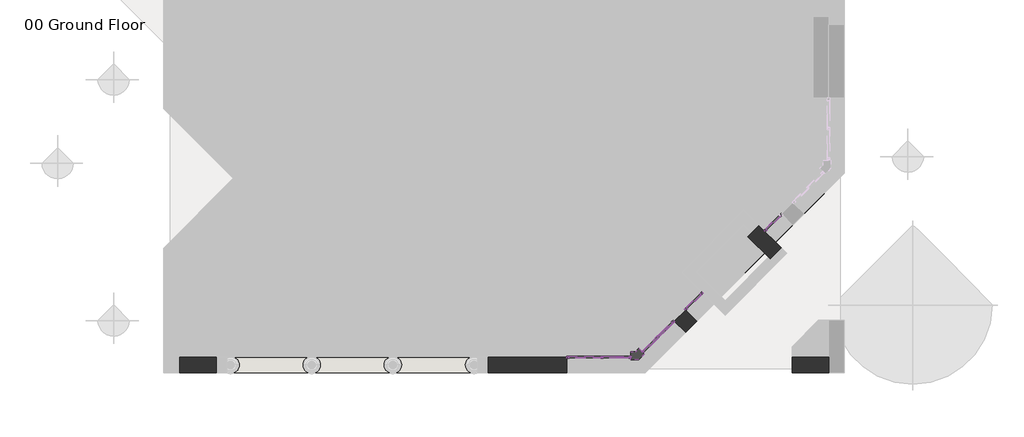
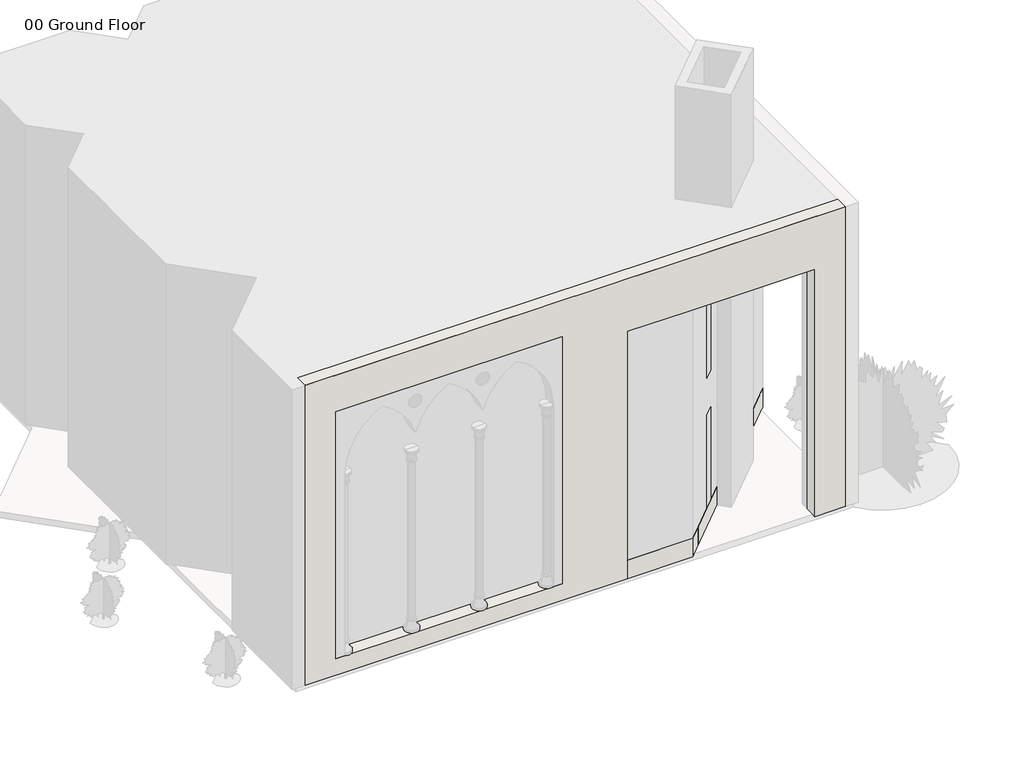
# One storey, part 1 of 3: 60 members, 21 plates, 5 walls.
"""IFC4 building model written with IfcOpenShell, lengths in millimetres."""

from ifc_helpers import new_model, si_unit, frame, origin, origin_with_axes, place, context, project, spatial, polyline, outline, extrude, faceted_brep, transform, mapped, element, save
from components import l_corner_mullion_l_mullion_1_e2d9d5b3, l_corner_mullion_l_mullion_1_e8b68346, l_corner_mullion_l_mullion_1_c02d540a, rectangular_mullion_30mm_square_5320ad48, rectangular_mullion_30mm_square_78a9478a, rectangular_mullion_30mm_square_8b2a8ca9, rectangular_mullion_30mm_square_79043444, rectangular_mullion_30mm_square_95f67fdb, rectangular_mullion_30mm_square_9f93f3b7, rectangular_mullion_30mm_square_da852ec3, rectangular_mullion_30mm_square_75a85c25, rectangular_mullion_30mm_square_58012b9b, rectangular_mullion_30mm_square_f9243ba7, rectangular_mullion_30mm_square_420f87d1, rectangular_mullion_30mm_square_9f401dcf, rectangular_mullion_30mm_square_8f27d01c, rectangular_mullion_30mm_square_376ee912, rectangular_mullion_30mm_square_b878c449, rectangular_mullion_30mm_square_f6e17314, rectangular_mullion_30mm_square_53190b3b, rectangular_mullion_30mm_square_433c3593, rectangular_mullion_30mm_square_e0b9fe8b, rectangular_mullion_30mm_square_b8c613d2, rectangular_mullion_30mm_square_6a42bf5c, rectangular_mullion_30mm_square_509656ef, rectangular_mullion_30mm_square_d2729fb2, rectangular_mullion_30mm_square_d63b7fbb, rectangular_mullion_30mm_square_65c46e77, rectangular_mullion_30mm_square_ff14cbc6, rectangular_mullion_30mm_square_ad176692, rectangular_mullion_30mm_square_9fe42079, system_panel_glazed_057a40a6, system_panel_glazed_b25b30cb, system_panel_glazed_b103806a, system_panel_glazed_7664c6fa, system_panel_glazed_08d62073, system_panel_glazed_7ff83298, system_panel_glazed_452d36e2, system_panel_glazed_01add136, system_panel_glazed_d1b73f3c, system_panel_glazed_32dad4e2, system_panel_glazed_42e5d501, system_panel_glazed_ac2dccf3, system_panel_glazed_d546440a, system_panel_glazed_63757f84, system_panel_glazed_193d12b3, system_panel_glazed_63dc7568, system_panel_glazed_cc472106, system_panel_glazed_829cf6d2, system_panel_glazed_fe00273a, system_panel_glazed_60207cc9, system_panel_glazed_c236d84a

model = new_model("IFC4")

# Units and contexts
model_context = context("Model", 3, world=origin())
ifc_project = project(units=[si_unit("LENGTHUNIT", "METRE", prefix="MILLI")], contexts=[model_context])

# Site, building, storey
site = spatial("IfcSite", under=ifc_project)
building = spatial("IfcBuilding", under=site)
storey = spatial("IfcBuildingStorey", under=building, Name="00 Ground Floor", Elevation=0.0)

# Members
placement = place(None, origin())
l_corner_mullion_l_mullion_1_shape = l_corner_mullion_l_mullion_1_e2d9d5b3(model_context)
element("IfcMember", 1, ObjectType="L Corner Mullion : L Mullion 1", at=placement, inside=storey, context=model_context, shape_type="MappedRepresentation", body=[
    mapped(l_corner_mullion_l_mullion_1_shape, transform((9052.387831, 299.9997817, 975.0), x_axis=(-0.7071067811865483, -0.7071067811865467, 0.0), y_axis=(0.7071067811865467, -0.7071067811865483, 0.0), z_axis=(0.0, 0.0, 1.0))),
])
l_corner_mullion_l_mullion_1_2_shape = l_corner_mullion_l_mullion_1_e8b68346(model_context)
element("IfcMember", 2, ObjectType="L Corner Mullion : L Mullion 1", at=placement, inside=storey, context=model_context, shape_type="MappedRepresentation", body=[
    mapped(l_corner_mullion_l_mullion_1_2_shape, transform((9052.387831, 299.9997817, 2699.6621432), x_axis=(-0.7071067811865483, -0.7071067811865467, 0.0), y_axis=(0.7071067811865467, -0.7071067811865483, 0.0), z_axis=(0.0, 0.0, 1.0))),
])
l_corner_mullion_l_mullion_1_3_shape = l_corner_mullion_l_mullion_1_c02d540a(model_context)
element("IfcMember", 3, ObjectType="L Corner Mullion : L Mullion 1", at=placement, inside=storey, context=model_context, shape_type="MappedRepresentation", body=[
    mapped(l_corner_mullion_l_mullion_1_3_shape, transform((9052.387831, 299.9997817, 2080.0), x_axis=(-0.7071067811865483, -0.7071067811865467, 0.0), y_axis=(0.7071067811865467, -0.7071067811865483, 0.0), z_axis=(0.0, 0.0, 1.0))),
])
rectangular_mullion_30mm_square_shape = rectangular_mullion_30mm_square_5320ad48(model_context)
element("IfcMember", 4, ObjectType="Rectangular Mullion : 30mm Square", at=placement, inside=storey, context=model_context, shape_type="MappedRepresentation", body=[
    mapped(rectangular_mullion_30mm_square_shape, transform((8372.387831, 299.9997817, 975.0), x_axis=(0.0, 0.0, 1.0), y_axis=(0.0, -1.0, 0.0), z_axis=(1.0, 0.0, 0.0))),
])
element("IfcMember", 5, ObjectType="Rectangular Mullion : 30mm Square", at=placement, inside=storey, context=model_context, shape_type="MappedRepresentation", body=[
    mapped(rectangular_mullion_30mm_square_shape, transform((8372.387831, 299.9997817, 2080.0), x_axis=(0.0, 0.0, 1.0), y_axis=(0.0, -1.0, 0.0), z_axis=(1.0, 0.0, 0.0))),
])
rectangular_mullion_30mm_square_2_shape = rectangular_mullion_30mm_square_78a9478a(model_context)
element("IfcMember", 6, ObjectType="Rectangular Mullion : 30mm Square", at=placement, inside=storey, context=model_context, shape_type="MappedRepresentation", body=[
    mapped(rectangular_mullion_30mm_square_2_shape, transform((8372.387831, 299.9997817, 2700.0), x_axis=(0.0, 0.0, 1.0), y_axis=(0.0, -1.0, 0.0), z_axis=(1.0, 0.0, 0.0))),
])
rectangular_mullion_30mm_square_3_shape = rectangular_mullion_30mm_square_8b2a8ca9(model_context)
element("IfcMember", 7, ObjectType="Rectangular Mullion : 30mm Square", at=placement, inside=storey, context=model_context, shape_type="MappedRepresentation", body=[
    mapped(rectangular_mullion_30mm_square_3_shape, transform((7692.387831, 299.9997817, 2080.0), x_axis=(-1.0, 0.0, 0.0), y_axis=(0.0, -1.0, 0.0), z_axis=(0.0, 0.0, 1.0))),
])
rectangular_mullion_30mm_square_4_shape = rectangular_mullion_30mm_square_79043444(model_context)
element("IfcMember", 8, ObjectType="Rectangular Mullion : 30mm Square", at=placement, inside=storey, context=model_context, shape_type="MappedRepresentation", body=[
    mapped(rectangular_mullion_30mm_square_4_shape, transform((8902.387831, 299.9997817, 975.0), x_axis=(1.0, 0.0, 0.0), y_axis=(0.0, -1.0, 0.0), z_axis=(0.0, 0.0, -1.0))),
])
rectangular_mullion_30mm_square_5_shape = rectangular_mullion_30mm_square_95f67fdb(model_context)
element("IfcMember", 9, ObjectType="Rectangular Mullion : 30mm Square", at=placement, inside=storey, context=model_context, shape_type="MappedRepresentation", body=[
    mapped(rectangular_mullion_30mm_square_5_shape, transform((8902.387831, 299.9997817, 2080.0), x_axis=(1.0, 0.0, 0.0), y_axis=(0.0, -1.0, 0.0), z_axis=(0.0, 0.0, -1.0))),
])
rectangular_mullion_30mm_square_6_shape = rectangular_mullion_30mm_square_9f93f3b7(model_context)
element("IfcMember", 10, ObjectType="Rectangular Mullion : 30mm Square", at=placement, inside=storey, context=model_context, shape_type="MappedRepresentation", body=[
    mapped(rectangular_mullion_30mm_square_6_shape, transform((7692.387831, 299.9997817, 2650.0), x_axis=(-1.0, 0.0, 0.0), y_axis=(0.0, -1.0, 0.0), z_axis=(0.0, 0.0, 1.0))),
])
rectangular_mullion_30mm_square_7_shape = rectangular_mullion_30mm_square_da852ec3(model_context)
element("IfcMember", 11, ObjectType="Rectangular Mullion : 30mm Square", at=placement, inside=storey, context=model_context, shape_type="MappedRepresentation", body=[
    mapped(rectangular_mullion_30mm_square_7_shape, transform((8927.387831, 299.9997817, 2700.0), x_axis=(0.0, 0.0, 1.0), y_axis=(0.0, -1.0, 0.0), z_axis=(1.0, 0.0, 0.0))),
])
rectangular_mullion_30mm_square_8_shape = rectangular_mullion_30mm_square_75a85c25(model_context)
element("IfcMember", 12, ObjectType="Rectangular Mullion : 30mm Square", at=placement, inside=storey, context=model_context, shape_type="MappedRepresentation", body=[
    mapped(rectangular_mullion_30mm_square_8_shape, transform((8877.387831, 299.9997817, 975.0), x_axis=(0.0, 0.0, 1.0), y_axis=(0.0, -1.0, 0.0), z_axis=(1.0, 0.0, 0.0))),
])
element("IfcMember", 13, ObjectType="Rectangular Mullion : 30mm Square", at=placement, inside=storey, context=model_context, shape_type="MappedRepresentation", body=[
    mapped(rectangular_mullion_30mm_square_8_shape, transform((8877.387831, 299.9997817, 2080.0), x_axis=(0.0, 0.0, 1.0), y_axis=(0.0, -1.0, 0.0), z_axis=(1.0, 0.0, 0.0))),
])
rectangular_mullion_30mm_square_9_shape = rectangular_mullion_30mm_square_58012b9b(model_context)
element("IfcMember", 14, ObjectType="Rectangular Mullion : 30mm Square", at=placement, inside=storey, context=model_context, shape_type="MappedRepresentation", body=[
    mapped(rectangular_mullion_30mm_square_9_shape, transform((8372.387831, 299.9997817, 1000.0), x_axis=(1.0, 0.0, 0.0), y_axis=(0.0, -1.0, 0.0), z_axis=(0.0, 0.0, -1.0))),
])
rectangular_mullion_30mm_square_10_shape = rectangular_mullion_30mm_square_f9243ba7(model_context)
element("IfcMember", 15, ObjectType="Rectangular Mullion : 30mm Square", at=placement, inside=storey, context=model_context, shape_type="MappedRepresentation", body=[
    mapped(rectangular_mullion_30mm_square_10_shape, transform((8372.387831, 299.9997817, 2105.0), x_axis=(1.0, 0.0, 0.0), y_axis=(0.0, -1.0, 0.0), z_axis=(0.0, 0.0, -1.0))),
])
rectangular_mullion_30mm_square_11_shape = rectangular_mullion_30mm_square_420f87d1(model_context)
element("IfcMember", 16, ObjectType="Rectangular Mullion : 30mm Square", at=placement, inside=storey, context=model_context, shape_type="MappedRepresentation", body=[
    mapped(rectangular_mullion_30mm_square_11_shape, transform((7692.387831, 299.9997817, 975.0), x_axis=(-1.0, 0.0, 0.0), y_axis=(0.0, -1.0, 0.0), z_axis=(0.0, 0.0, 1.0))),
])
element("IfcMember", 17, ObjectType="Rectangular Mullion : 30mm Square", at=placement, inside=storey, context=model_context, shape_type="MappedRepresentation", body=[
    mapped(rectangular_mullion_30mm_square_2_shape, transform((7692.387831, 299.9997817, 450.0), x_axis=(0.0, 0.0, -1.0), y_axis=(0.0, -1.0, 0.0), z_axis=(-1.0, 0.0, 0.0))),
])
rectangular_mullion_30mm_square_12_shape = rectangular_mullion_30mm_square_9f401dcf(model_context)
element("IfcMember", 18, ObjectType="Rectangular Mullion : 30mm Square", at=placement, inside=storey, context=model_context, shape_type="MappedRepresentation", body=[
    mapped(rectangular_mullion_30mm_square_12_shape, transform((8372.387831, 299.9997817, 500.0), x_axis=(1.0, 0.0, 0.0), y_axis=(0.0, -1.0, 0.0), z_axis=(0.0, 0.0, -1.0))),
])
element("IfcMember", 19, ObjectType="Rectangular Mullion : 30mm Square", at=placement, inside=storey, context=model_context, shape_type="MappedRepresentation", body=[
    mapped(rectangular_mullion_30mm_square_7_shape, transform((8372.387831, 299.9997817, 450.0), x_axis=(0.0, 0.0, -1.0), y_axis=(0.0, -1.0, 0.0), z_axis=(-1.0, 0.0, 0.0))),
])
rectangular_mullion_30mm_square_13_shape = rectangular_mullion_30mm_square_8f27d01c(model_context)
element("IfcMember", 20, ObjectType="Rectangular Mullion : 30mm Square", at=placement, inside=storey, context=model_context, shape_type="MappedRepresentation", body=[
    mapped(rectangular_mullion_30mm_square_13_shape, transform((8902.387831, 299.9997817, 500.0), x_axis=(1.0, 0.0, 0.0), y_axis=(0.0, -1.0, 0.0), z_axis=(0.0, 0.0, -1.0))),
])
rectangular_mullion_30mm_square_14_shape = rectangular_mullion_30mm_square_376ee912(model_context)
element("IfcMember", 21, ObjectType="Rectangular Mullion : 30mm Square", at=placement, inside=storey, context=model_context, shape_type="MappedRepresentation", body=[
    mapped(rectangular_mullion_30mm_square_14_shape, transform((9158.4538482, 406.0657989, 2699.6621432), x_axis=(0.0, 0.0, 1.0), y_axis=(0.7071067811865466, -0.7071067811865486, 0.0), z_axis=(0.7071067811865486, 0.7071067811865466, 0.0))),
])
element("IfcMember", 22, ObjectType="Rectangular Mullion : 30mm Square", at=placement, inside=storey, context=model_context, shape_type="MappedRepresentation", body=[
    mapped(rectangular_mullion_30mm_square_14_shape, transform((9145.1487617, 392.7607123, 450.0), x_axis=(0.0, 0.0, -1.0), y_axis=(0.7071067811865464, -0.7071067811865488, 0.0), z_axis=(-0.7071067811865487, -0.7071067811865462, 0.0))),
])
rectangular_mullion_30mm_square_15_shape = rectangular_mullion_30mm_square_b878c449(model_context)
element("IfcMember", 23, ObjectType="Rectangular Mullion : 30mm Square", at=placement, inside=storey, context=model_context, shape_type="MappedRepresentation", body=[
    mapped(rectangular_mullion_30mm_square_15_shape, transform((9158.4538482, 406.0657989, 975.0), x_axis=(0.0, 0.0, 1.0), y_axis=(0.7071067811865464, -0.7071067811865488, 0.0), z_axis=(0.7071067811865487, 0.7071067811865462, 0.0))),
])
element("IfcMember", 24, ObjectType="Rectangular Mullion : 30mm Square", at=placement, inside=storey, context=model_context, shape_type="MappedRepresentation", body=[
    mapped(rectangular_mullion_30mm_square_15_shape, transform((9158.4538482, 406.0657989, 2080.0), x_axis=(0.0, 0.0, 1.0), y_axis=(0.7071067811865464, -0.7071067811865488, 0.0), z_axis=(0.7071067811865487, 0.7071067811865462, 0.0))),
])
rectangular_mullion_30mm_square_16_shape = rectangular_mullion_30mm_square_f6e17314(model_context)
element("IfcMember", 25, ObjectType="Rectangular Mullion : 30mm Square", at=placement, inside=storey, context=model_context, shape_type="MappedRepresentation", body=[
    mapped(rectangular_mullion_30mm_square_16_shape, transform((9709.9971376, 957.6090882, 975.0), x_axis=(0.0, 0.0, 1.0), y_axis=(0.7071067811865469, -0.7071067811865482, 0.0), z_axis=(0.7071067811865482, 0.7071067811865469, 0.0))),
])
element("IfcMember", 26, ObjectType="Rectangular Mullion : 30mm Square", at=placement, inside=storey, context=model_context, shape_type="MappedRepresentation", body=[
    mapped(rectangular_mullion_30mm_square_16_shape, transform((9709.9971376, 957.6090882, 2080.0), x_axis=(0.0, 0.0, 1.0), y_axis=(0.7071067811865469, -0.7071067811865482, 0.0), z_axis=(0.7071067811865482, 0.7071067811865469, 0.0))),
])
element("IfcMember", 27, ObjectType="Rectangular Mullion : 30mm Square", at=placement, inside=storey, context=model_context, shape_type="MappedRepresentation", body=[
    mapped(rectangular_mullion_30mm_square_3_shape, transform((9745.3524766, 992.9644272, 975.0), x_axis=(0.7071067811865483, 0.7071067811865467, 0.0), y_axis=(0.7071067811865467, -0.7071067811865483, 0.0), z_axis=(0.0, 0.0, -1.0))),
])
rectangular_mullion_30mm_square_17_shape = rectangular_mullion_30mm_square_53190b3b(model_context)
element("IfcMember", 28, ObjectType="Rectangular Mullion : 30mm Square", at=placement, inside=storey, context=model_context, shape_type="MappedRepresentation", body=[
    mapped(rectangular_mullion_30mm_square_17_shape, transform((9745.3524766, 992.9644272, 2699.6621432), x_axis=(0.0, 0.0, 1.0), y_axis=(0.7071067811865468, -0.7071067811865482, 0.0), z_axis=(0.7071067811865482, 0.7071067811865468, 0.0))),
])
rectangular_mullion_30mm_square_18_shape = rectangular_mullion_30mm_square_433c3593(model_context)
element("IfcMember", 29, ObjectType="Rectangular Mullion : 30mm Square", at=placement, inside=storey, context=model_context, shape_type="MappedRepresentation", body=[
    mapped(rectangular_mullion_30mm_square_18_shape, transform((9745.3524766, 992.9644272, 2080.0), x_axis=(0.7071067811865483, 0.7071067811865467, 0.0), y_axis=(0.7071067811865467, -0.7071067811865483, 0.0), z_axis=(0.0, 0.0, -1.0))),
])
element("IfcMember", 30, ObjectType="Rectangular Mullion : 30mm Square", at=placement, inside=storey, context=model_context, shape_type="MappedRepresentation", body=[
    mapped(rectangular_mullion_30mm_square_17_shape, transform((9158.4538482, 406.0657989, 450.0), x_axis=(0.0, 0.0, -1.0), y_axis=(0.7071067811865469, -0.7071067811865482, 0.0), z_axis=(-0.7071067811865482, -0.7071067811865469, 0.0))),
])
element("IfcMember", 31, ObjectType="Rectangular Mullion : 30mm Square", at=placement, inside=storey, context=model_context, shape_type="MappedRepresentation", body=[
    mapped(rectangular_mullion_30mm_square_11_shape, transform((9745.3524766, 992.9644272, 500.0), x_axis=(0.7071067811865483, 0.7071067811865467, 0.0), y_axis=(0.7071067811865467, -0.7071067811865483, 0.0), z_axis=(0.0, 0.0, -1.0))),
])
rectangular_mullion_30mm_square_19_shape = rectangular_mullion_30mm_square_e0b9fe8b(model_context)
element("IfcMember", 32, ObjectType="Rectangular Mullion : 30mm Square", at=placement, inside=storey, context=model_context, shape_type="MappedRepresentation", body=[
    mapped(rectangular_mullion_30mm_square_19_shape, transform((11472.9706669, 2704.8466863, 1010.0), x_axis=(-0.7071067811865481, -0.707106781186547, 0.0), y_axis=(0.707106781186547, -0.7071067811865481, 0.0), z_axis=(0.0, 0.0, 1.0))),
])
rectangular_mullion_30mm_square_20_shape = rectangular_mullion_30mm_square_b8c613d2(model_context)
element("IfcMember", 33, ObjectType="Rectangular Mullion : 30mm Square", at=placement, inside=storey, context=model_context, shape_type="MappedRepresentation", body=[
    mapped(rectangular_mullion_30mm_square_20_shape, transform((11472.9706669, 2704.8466863, 2130.0), x_axis=(-0.7071067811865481, -0.707106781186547, 0.0), y_axis=(0.707106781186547, -0.7071067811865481, 0.0), z_axis=(0.0, 0.0, 1.0))),
])
rectangular_mullion_30mm_square_21_shape = rectangular_mullion_30mm_square_6a42bf5c(model_context)
element("IfcMember", 34, ObjectType="Rectangular Mullion : 30mm Square", at=placement, inside=storey, context=model_context, shape_type="MappedRepresentation", body=[
    mapped(rectangular_mullion_30mm_square_21_shape, transform((11767.9454138, 2999.8214331, 2130.0), x_axis=(0.0, 0.0, 1.0), y_axis=(0.7071067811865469, -0.7071067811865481, 0.0), z_axis=(0.7071067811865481, 0.7071067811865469, 0.0))),
])
element("IfcMember", 35, ObjectType="Rectangular Mullion : 30mm Square", at=placement, inside=storey, context=model_context, shape_type="MappedRepresentation", body=[
    mapped(rectangular_mullion_30mm_square_21_shape, transform((11767.9454138, 2999.8214331, 1010.0), x_axis=(0.0, 0.0, 1.0), y_axis=(0.7071067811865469, -0.7071067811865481, 0.0), z_axis=(0.7071067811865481, 0.7071067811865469, 0.0))),
])
element("IfcMember", 36, ObjectType="Rectangular Mullion : 30mm Square", at=placement, inside=storey, context=model_context, shape_type="MappedRepresentation", body=[
    mapped(rectangular_mullion_30mm_square_21_shape, transform((10251.9299029, 1499.5418536, 4181.6105892), x_axis=(0.0, 0.0, 1.0), y_axis=(0.7071067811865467, -0.7071067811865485, 0.0), z_axis=(0.7071067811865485, 0.7071067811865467, 0.0))),
])
element("IfcMember", 37, ObjectType="Rectangular Mullion : 30mm Square", at=placement, inside=storey, context=model_context, shape_type="MappedRepresentation", body=[
    mapped(rectangular_mullion_30mm_square_21_shape, transform((10251.9299029, 1499.5418536, 5415.0), x_axis=(0.0, 0.0, 1.0), y_axis=(0.7071067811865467, -0.7071067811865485, 0.0), z_axis=(0.7071067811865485, 0.7071067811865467, 0.0))),
])
element("IfcMember", 38, ObjectType="Rectangular Mullion : 30mm Square", at=placement, inside=storey, context=model_context, shape_type="MappedRepresentation", body=[
    mapped(rectangular_mullion_30mm_square_21_shape, transform((10251.9299029, 1499.5418536, 2060.3490056), x_axis=(0.0, 0.0, 1.0), y_axis=(0.7071067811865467, -0.7071067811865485, 0.0), z_axis=(0.7071067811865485, 0.7071067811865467, 0.0))),
])
element("IfcMember", 39, ObjectType="Rectangular Mullion : 30mm Square", at=placement, inside=storey, context=model_context, shape_type="MappedRepresentation", body=[
    mapped(rectangular_mullion_30mm_square_21_shape, transform((10251.9299029, 1499.5418536, 980.0), x_axis=(0.0, 0.0, 1.0), y_axis=(0.7071067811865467, -0.7071067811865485, 0.0), z_axis=(0.7071067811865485, 0.7071067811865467, 0.0))),
])
element("IfcMember", 40, ObjectType="Rectangular Mullion : 30mm Square", at=placement, inside=storey, context=model_context, shape_type="MappedRepresentation", body=[
    mapped(rectangular_mullion_30mm_square_20_shape, transform((11803.3007528, 3035.1767722, 1010.0), x_axis=(0.7071067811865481, 0.707106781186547, 0.0), y_axis=(0.707106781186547, -0.7071067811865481, 0.0), z_axis=(0.0, 0.0, -1.0))),
])
rectangular_mullion_30mm_square_22_shape = rectangular_mullion_30mm_square_509656ef(model_context)
element("IfcMember", 41, ObjectType="Rectangular Mullion : 30mm Square", at=placement, inside=storey, context=model_context, shape_type="MappedRepresentation", body=[
    mapped(rectangular_mullion_30mm_square_22_shape, transform((11508.326006, 2740.2020254, 450.0), x_axis=(0.0, 0.0, -1.0), y_axis=(0.7071067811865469, -0.7071067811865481, 0.0), z_axis=(-0.7071067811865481, -0.7071067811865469, 0.0))),
])
element("IfcMember", 42, ObjectType="Rectangular Mullion : 30mm Square", at=placement, inside=storey, context=model_context, shape_type="MappedRepresentation", body=[
    mapped(rectangular_mullion_30mm_square_22_shape, transform((9992.3104296, 1239.9223802, 3602.4158839), x_axis=(0.0, 0.0, -1.0), y_axis=(0.7071067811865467, -0.7071067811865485, 0.0), z_axis=(-0.7071067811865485, -0.7071067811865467, 0.0))),
])
element("IfcMember", 43, ObjectType="Rectangular Mullion : 30mm Square", at=placement, inside=storey, context=model_context, shape_type="MappedRepresentation", body=[
    mapped(rectangular_mullion_30mm_square_22_shape, transform((9992.3104296, 1239.9223802, 450.0), x_axis=(0.0, 0.0, -1.0), y_axis=(0.7071067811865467, -0.7071067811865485, 0.0), z_axis=(-0.7071067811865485, -0.7071067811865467, 0.0))),
])
element("IfcMember", 44, ObjectType="Rectangular Mullion : 30mm Square", at=placement, inside=storey, context=model_context, shape_type="MappedRepresentation", body=[
    mapped(rectangular_mullion_30mm_square_19_shape, transform((11803.3007528, 3035.1767722, 450.0), x_axis=(0.7071067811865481, 0.707106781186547, 0.0), y_axis=(0.707106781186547, -0.7071067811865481, 0.0), z_axis=(0.0, 0.0, -1.0))),
])
element("IfcMember", 45, ObjectType="Rectangular Mullion : 30mm Square", at=placement, inside=storey, context=model_context, shape_type="MappedRepresentation", body=[
    mapped(rectangular_mullion_30mm_square_22_shape, transform((11767.9454138, 2999.8214331, 2700.0), x_axis=(0.0, 0.0, 1.0), y_axis=(0.7071067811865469, -0.7071067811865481, 0.0), z_axis=(0.7071067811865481, 0.7071067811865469, 0.0))),
])
element("IfcMember", 46, ObjectType="Rectangular Mullion : 30mm Square", at=placement, inside=storey, context=model_context, shape_type="MappedRepresentation", body=[
    mapped(rectangular_mullion_30mm_square_22_shape, transform((10251.9299029, 1499.5418536, 6000.0), x_axis=(0.0, 0.0, 1.0), y_axis=(0.7071067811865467, -0.7071067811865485, 0.0), z_axis=(0.7071067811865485, 0.7071067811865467, 0.0))),
])
element("IfcMember", 47, ObjectType="Rectangular Mullion : 30mm Square", at=placement, inside=storey, context=model_context, shape_type="MappedRepresentation", body=[
    mapped(rectangular_mullion_30mm_square_22_shape, transform((10251.9299029, 1499.5418536, 2710.3490056), x_axis=(0.0, 0.0, 1.0), y_axis=(0.7071067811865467, -0.7071067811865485, 0.0), z_axis=(0.7071067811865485, 0.7071067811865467, 0.0))),
])
element("IfcMember", 48, ObjectType="Rectangular Mullion : 30mm Square", at=placement, inside=storey, context=model_context, shape_type="MappedRepresentation", body=[
    mapped(rectangular_mullion_30mm_square_6_shape, transform((11472.9706669, 2704.8466863, 2700.0), x_axis=(-0.7071067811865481, -0.707106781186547, 0.0), y_axis=(0.707106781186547, -0.7071067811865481, 0.0), z_axis=(0.0, 0.0, 1.0))),
])
rectangular_mullion_30mm_square_23_shape = rectangular_mullion_30mm_square_d2729fb2(model_context)
element("IfcMember", 49, ObjectType="Rectangular Mullion : 30mm Square", at=placement, inside=storey, context=model_context, shape_type="MappedRepresentation", body=[
    mapped(rectangular_mullion_30mm_square_23_shape, transform((9956.9550905, 1204.5670412, 6000.0), x_axis=(-0.7071067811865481, -0.7071067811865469, 0.0), y_axis=(0.7071067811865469, -0.7071067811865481, 0.0), z_axis=(0.0, 0.0, 1.0))),
])
rectangular_mullion_30mm_square_24_shape = rectangular_mullion_30mm_square_d63b7fbb(model_context)
element("IfcMember", 50, ObjectType="Rectangular Mullion : 30mm Square", at=placement, inside=storey, context=model_context, shape_type="MappedRepresentation", body=[
    mapped(rectangular_mullion_30mm_square_24_shape, transform((9956.9550905, 1204.5670412, 4181.6105892), x_axis=(-0.7071067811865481, -0.7071067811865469, 0.0), y_axis=(0.7071067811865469, -0.7071067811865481, 0.0), z_axis=(0.0, 0.0, 1.0))),
])
rectangular_mullion_30mm_square_25_shape = rectangular_mullion_30mm_square_65c46e77(model_context)
element("IfcMember", 51, ObjectType="Rectangular Mullion : 30mm Square", at=placement, inside=storey, context=model_context, shape_type="MappedRepresentation", body=[
    mapped(rectangular_mullion_30mm_square_25_shape, transform((9956.9550905, 1204.5670412, 5415.0), x_axis=(-0.7071067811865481, -0.7071067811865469, 0.0), y_axis=(0.7071067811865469, -0.7071067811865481, 0.0), z_axis=(0.0, 0.0, 1.0))),
])
element("IfcMember", 52, ObjectType="Rectangular Mullion : 30mm Square", at=placement, inside=storey, context=model_context, shape_type="MappedRepresentation", body=[
    mapped(rectangular_mullion_30mm_square_24_shape, transform((10287.285242, 1534.8971926, 3602.4158839), x_axis=(0.7071067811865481, 0.7071067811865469, 0.0), y_axis=(0.7071067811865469, -0.7071067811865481, 0.0), z_axis=(0.0, 0.0, -1.0))),
])
element("IfcMember", 53, ObjectType="Rectangular Mullion : 30mm Square", at=placement, inside=storey, context=model_context, shape_type="MappedRepresentation", body=[
    mapped(rectangular_mullion_30mm_square_23_shape, transform((10287.285242, 1534.8971926, 5415.0), x_axis=(0.7071067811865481, 0.7071067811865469, 0.0), y_axis=(0.7071067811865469, -0.7071067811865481, 0.0), z_axis=(0.0, 0.0, -1.0))),
])
element("IfcMember", 54, ObjectType="Rectangular Mullion : 30mm Square", at=placement, inside=storey, context=model_context, shape_type="MappedRepresentation", body=[
    mapped(rectangular_mullion_30mm_square_25_shape, transform((10287.285242, 1534.8971926, 4181.6105892), x_axis=(0.7071067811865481, 0.7071067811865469, 0.0), y_axis=(0.7071067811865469, -0.7071067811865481, 0.0), z_axis=(0.0, 0.0, -1.0))),
])
rectangular_mullion_30mm_square_26_shape = rectangular_mullion_30mm_square_ff14cbc6(model_context)
element("IfcMember", 55, ObjectType="Rectangular Mullion : 30mm Square", at=placement, inside=storey, context=model_context, shape_type="MappedRepresentation", body=[
    mapped(rectangular_mullion_30mm_square_26_shape, transform((9956.9550905, 1204.5670412, 2710.3490056), x_axis=(-0.7071067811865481, -0.7071067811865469, 0.0), y_axis=(0.7071067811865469, -0.7071067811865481, 0.0), z_axis=(0.0, 0.0, 1.0))),
])
rectangular_mullion_30mm_square_27_shape = rectangular_mullion_30mm_square_ad176692(model_context)
element("IfcMember", 56, ObjectType="Rectangular Mullion : 30mm Square", at=placement, inside=storey, context=model_context, shape_type="MappedRepresentation", body=[
    mapped(rectangular_mullion_30mm_square_27_shape, transform((10287.285242, 1534.8971926, 450.0), x_axis=(0.7071067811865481, 0.7071067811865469, 0.0), y_axis=(0.7071067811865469, -0.7071067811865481, 0.0), z_axis=(0.0, 0.0, -1.0))),
])
element("IfcMember", 57, ObjectType="Rectangular Mullion : 30mm Square", at=placement, inside=storey, context=model_context, shape_type="MappedRepresentation", body=[
    mapped(rectangular_mullion_30mm_square_27_shape, transform((9956.9550905, 1204.5670412, 980.0), x_axis=(-0.7071067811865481, -0.7071067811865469, 0.0), y_axis=(0.7071067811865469, -0.7071067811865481, 0.0), z_axis=(0.0, 0.0, 1.0))),
])
rectangular_mullion_30mm_square_28_shape = rectangular_mullion_30mm_square_9fe42079(model_context)
element("IfcMember", 58, ObjectType="Rectangular Mullion : 30mm Square", at=placement, inside=storey, context=model_context, shape_type="MappedRepresentation", body=[
    mapped(rectangular_mullion_30mm_square_28_shape, transform((9956.9550905, 1204.5670412, 2060.3490056), x_axis=(-0.7071067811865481, -0.7071067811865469, 0.0), y_axis=(0.7071067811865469, -0.7071067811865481, 0.0), z_axis=(0.0, 0.0, 1.0))),
])
element("IfcMember", 59, ObjectType="Rectangular Mullion : 30mm Square", at=placement, inside=storey, context=model_context, shape_type="MappedRepresentation", body=[
    mapped(rectangular_mullion_30mm_square_26_shape, transform((10287.285242, 1534.8971926, 2060.3490056), x_axis=(0.7071067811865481, 0.7071067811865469, 0.0), y_axis=(0.7071067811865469, -0.7071067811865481, 0.0), z_axis=(0.0, 0.0, -1.0))),
])
element("IfcMember", 60, ObjectType="Rectangular Mullion : 30mm Square", at=placement, inside=storey, context=model_context, shape_type="MappedRepresentation", body=[
    mapped(rectangular_mullion_30mm_square_28_shape, transform((10287.285242, 1534.8971926, 980.0), x_axis=(0.7071067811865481, 0.7071067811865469, 0.0), y_axis=(0.7071067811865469, -0.7071067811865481, 0.0), z_axis=(0.0, 0.0, -1.0))),
])

# Plates
system_panel_glazed_shape = system_panel_glazed_057a40a6(model_context)
element("IfcPlate", 61, ObjectType="System Panel : Glazed", at=placement, inside=storey, context=model_context, shape_type="MappedRepresentation", body=[
    mapped(system_panel_glazed_shape, transform((8044.887831, 299.9997817, 500.0), x_axis=(1.0, 0.0, 0.0), y_axis=(0.0, 1.0, 0.0), z_axis=(0.0, 0.0, 1.0))),
])
system_panel_glazed_2_shape = system_panel_glazed_b25b30cb(model_context)
element("IfcPlate", 62, ObjectType="System Panel : Glazed", at=placement, inside=storey, context=model_context, shape_type="MappedRepresentation", body=[
    mapped(system_panel_glazed_2_shape, transform((8044.887831, 299.9997817, 2105.0), x_axis=(1.0, 0.0, 0.0), y_axis=(0.0, 1.0, 0.0), z_axis=(0.0, 0.0, 1.0))),
])
system_panel_glazed_3_shape = system_panel_glazed_b103806a(model_context)
element("IfcPlate", 63, ObjectType="System Panel : Glazed", at=placement, inside=storey, context=model_context, shape_type="MappedRepresentation", body=[
    mapped(system_panel_glazed_3_shape, transform((8044.887831, 299.9997817, 1000.0), x_axis=(1.0, 0.0, 0.0), y_axis=(0.0, 1.0, 0.0), z_axis=(0.0, 0.0, 1.0))),
])
system_panel_glazed_4_shape = system_panel_glazed_7664c6fa(model_context)
element("IfcPlate", 64, ObjectType="System Panel : Glazed", at=placement, inside=storey, context=model_context, shape_type="MappedRepresentation", body=[
    mapped(system_panel_glazed_4_shape, transform((8637.387831, 299.9997817, 500.0), x_axis=(1.0, 0.0, 0.0), y_axis=(0.0, 1.0, 0.0), z_axis=(0.0, 0.0, 1.0))),
])
system_panel_glazed_5_shape = system_panel_glazed_08d62073(model_context)
element("IfcPlate", 65, ObjectType="System Panel : Glazed", at=placement, inside=storey, context=model_context, shape_type="MappedRepresentation", body=[
    mapped(system_panel_glazed_5_shape, transform((8637.387831, 299.9997817, 2105.0), x_axis=(1.0, 0.0, 0.0), y_axis=(0.0, 1.0, 0.0), z_axis=(0.0, 0.0, 1.0))),
])
system_panel_glazed_6_shape = system_panel_glazed_7ff83298(model_context)
element("IfcPlate", 66, ObjectType="System Panel : Glazed", at=placement, inside=storey, context=model_context, shape_type="MappedRepresentation", body=[
    mapped(system_panel_glazed_6_shape, transform((8637.387831, 299.9997817, 1000.0), x_axis=(1.0, 0.0, 0.0), y_axis=(0.0, 1.0, 0.0), z_axis=(0.0, 0.0, 1.0))),
])
system_panel_glazed_7_shape = system_panel_glazed_452d36e2(model_context)
element("IfcPlate", 67, ObjectType="System Panel : Glazed", at=placement, inside=storey, context=model_context, shape_type="MappedRepresentation", body=[
    mapped(system_panel_glazed_7_shape, transform((9151.801305, 399.4132556, 500.0), x_axis=(0.7071067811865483, 0.7071067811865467, 0.0), y_axis=(-0.7071067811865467, 0.7071067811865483, 0.0), z_axis=(0.0, 0.0, 1.0))),
])
system_panel_glazed_8_shape = system_panel_glazed_01add136(model_context)
element("IfcPlate", 68, ObjectType="System Panel : Glazed", at=placement, inside=storey, context=model_context, shape_type="MappedRepresentation", body=[
    mapped(system_panel_glazed_8_shape, transform((9434.2254929, 681.8374435, 500.0), x_axis=(0.7071067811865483, 0.7071067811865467, 0.0), y_axis=(-0.7071067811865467, 0.7071067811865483, 0.0), z_axis=(0.0, 0.0, 1.0))),
])
system_panel_glazed_9_shape = system_panel_glazed_d1b73f3c(model_context)
element("IfcPlate", 69, ObjectType="System Panel : Glazed", at=placement, inside=storey, context=model_context, shape_type="MappedRepresentation", body=[
    mapped(system_panel_glazed_9_shape, transform((9151.801305, 399.4132556, 2105.0), x_axis=(0.7071067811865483, 0.7071067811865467, 0.0), y_axis=(-0.7071067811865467, 0.7071067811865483, 0.0), z_axis=(0.0, 0.0, 1.0))),
])
system_panel_glazed_10_shape = system_panel_glazed_32dad4e2(model_context)
element("IfcPlate", 70, ObjectType="System Panel : Glazed", at=placement, inside=storey, context=model_context, shape_type="MappedRepresentation", body=[
    mapped(system_panel_glazed_10_shape, transform((9151.801305, 399.4132556, 1000.0), x_axis=(0.7071067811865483, 0.7071067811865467, 0.0), y_axis=(-0.7071067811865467, 0.7071067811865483, 0.0), z_axis=(0.0, 0.0, 1.0))),
])
system_panel_glazed_11_shape = system_panel_glazed_42e5d501(model_context)
element("IfcPlate", 71, ObjectType="System Panel : Glazed", at=placement, inside=storey, context=model_context, shape_type="MappedRepresentation", body=[
    mapped(system_panel_glazed_11_shape, transform((9434.2254929, 681.8374435, 1000.0), x_axis=(0.7071067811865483, 0.7071067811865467, 0.0), y_axis=(-0.7071067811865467, 0.7071067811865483, 0.0), z_axis=(0.0, 0.0, 1.0))),
])
system_panel_glazed_12_shape = system_panel_glazed_ac2dccf3(model_context)
element("IfcPlate", 72, ObjectType="System Panel : Glazed", at=placement, inside=storey, context=model_context, shape_type="MappedRepresentation", body=[
    mapped(system_panel_glazed_12_shape, transform((9434.2254929, 681.8374435, 2105.0), x_axis=(0.7071067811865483, 0.7071067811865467, 0.0), y_axis=(-0.7071067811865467, 0.7071067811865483, 0.0), z_axis=(0.0, 0.0, 1.0))),
])
system_panel_glazed_13_shape = system_panel_glazed_d546440a(model_context)
element("IfcPlate", 73, ObjectType="System Panel : Glazed", at=placement, inside=storey, context=model_context, shape_type="MappedRepresentation", body=[
    mapped(system_panel_glazed_13_shape, transform((11638.1357099, 2870.0117292, 1035.0), x_axis=(0.7071067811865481, 0.707106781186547, 0.0), y_axis=(-0.707106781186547, 0.7071067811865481, 0.0), z_axis=(0.0, 0.0, 1.0))),
])
system_panel_glazed_14_shape = system_panel_glazed_63757f84(model_context)
element("IfcPlate", 74, ObjectType="System Panel : Glazed", at=placement, inside=storey, context=model_context, shape_type="MappedRepresentation", body=[
    mapped(system_panel_glazed_14_shape, transform((11638.1357099, 2870.0117292, 500.0), x_axis=(0.7071067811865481, 0.707106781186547, 0.0), y_axis=(-0.707106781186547, 0.7071067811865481, 0.0), z_axis=(0.0, 0.0, 1.0))),
])
system_panel_glazed_15_shape = system_panel_glazed_193d12b3(model_context)
element("IfcPlate", 75, ObjectType="System Panel : Glazed", at=placement, inside=storey, context=model_context, shape_type="MappedRepresentation", body=[
    mapped(system_panel_glazed_15_shape, transform((11638.1357099, 2870.0117292, 2155.0), x_axis=(0.7071067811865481, 0.707106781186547, 0.0), y_axis=(-0.707106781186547, 0.7071067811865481, 0.0), z_axis=(0.0, 0.0, 1.0))),
])
system_panel_glazed_16_shape = system_panel_glazed_63dc7568(model_context)
element("IfcPlate", 76, ObjectType="System Panel : Glazed", at=placement, inside=storey, context=model_context, shape_type="MappedRepresentation", body=[
    mapped(system_panel_glazed_16_shape, transform((10122.1201663, 1369.7321169, 3652.4158839), x_axis=(0.7071067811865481, 0.7071067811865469, 0.0), y_axis=(-0.7071067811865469, 0.7071067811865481, 0.0), z_axis=(0.0, 0.0, 1.0))),
])
system_panel_glazed_17_shape = system_panel_glazed_cc472106(model_context)
element("IfcPlate", 77, ObjectType="System Panel : Glazed", at=placement, inside=storey, context=model_context, shape_type="MappedRepresentation", body=[
    mapped(system_panel_glazed_17_shape, transform((10122.1201663, 1369.7321169, 5440.0), x_axis=(0.7071067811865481, 0.7071067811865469, 0.0), y_axis=(-0.7071067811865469, 0.7071067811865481, 0.0), z_axis=(0.0, 0.0, 1.0))),
])
system_panel_glazed_18_shape = system_panel_glazed_829cf6d2(model_context)
element("IfcPlate", 78, ObjectType="System Panel : Glazed", at=placement, inside=storey, context=model_context, shape_type="MappedRepresentation", body=[
    mapped(system_panel_glazed_18_shape, transform((10122.1201663, 1369.7321169, 4206.6105892), x_axis=(0.7071067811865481, 0.7071067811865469, 0.0), y_axis=(-0.7071067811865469, 0.7071067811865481, 0.0), z_axis=(0.0, 0.0, 1.0))),
])
system_panel_glazed_19_shape = system_panel_glazed_fe00273a(model_context)
element("IfcPlate", 79, ObjectType="System Panel : Glazed", at=placement, inside=storey, context=model_context, shape_type="MappedRepresentation", body=[
    mapped(system_panel_glazed_19_shape, transform((10122.1201663, 1369.7321169, 500.0), x_axis=(0.7071067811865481, 0.7071067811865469, 0.0), y_axis=(-0.7071067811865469, 0.7071067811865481, 0.0), z_axis=(0.0, 0.0, 1.0))),
])
system_panel_glazed_20_shape = system_panel_glazed_60207cc9(model_context)
element("IfcPlate", 80, ObjectType="System Panel : Glazed", at=placement, inside=storey, context=model_context, shape_type="MappedRepresentation", body=[
    mapped(system_panel_glazed_20_shape, transform((10122.1201663, 1369.7321169, 2085.3490056), x_axis=(0.7071067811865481, 0.7071067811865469, 0.0), y_axis=(-0.7071067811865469, 0.7071067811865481, 0.0), z_axis=(0.0, 0.0, 1.0))),
])
system_panel_glazed_21_shape = system_panel_glazed_c236d84a(model_context)
element("IfcPlate", 81, ObjectType="System Panel : Glazed", at=placement, inside=storey, context=model_context, shape_type="MappedRepresentation", body=[
    mapped(system_panel_glazed_21_shape, transform((10122.1201663, 1369.7321169, 1005.0), x_axis=(0.7071067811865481, 0.7071067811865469, 0.0), y_axis=(-0.7071067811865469, 0.7071067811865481, 0.0), z_axis=(0.0, 0.0, 1.0))),
])

# Walls
element("IfcWall", 82, ObjectType="Generic - 300mm", at=placement, inside=storey, context=model_context, shape_type="SweptSolid", body=[
    extrude(outline(polyline([(11366.9046498, 2810.9127035), (11791.1687185, 2386.6486348), (11579.0366841, 2174.5166004), (11154.7726154, 2598.7806691), (11366.9046498, 2810.9127035)])), origin_with_axes(), (0.0, 0.0, 1.0), 6000.0),
])
element("IfcWall", 83, ObjectType="Generic - 300mm", at=placement, inside=storey, context=model_context, shape_type="Brep", body=[
    faceted_brep([(7692.387831, -0.0002183, 0.0), (9192.387831, -0.0002183, 0.0), (9192.387831, -0.0002183, 450.0), (7692.387831, -0.0002183, 450.0), (7692.387831, 299.9997817, 0.0), (7692.387831, 299.9997817, 450.0), (9068.1237623, 299.9997817, 450.0), (9492.387831, 299.9997817, 450.0), (9492.387831, 299.9997817, 0.0), (9068.1237623, 299.9997817, 0.0)], [[[0, 1, 2, 3]], [[4, 5, 6, 7, 8, 9]], [[1, 0, 4, 9, 8]], [[3, 2, 7, 6, 5]], [[0, 3, 5, 4]], [[2, 1, 8, 7]]]),
])
element("IfcWall", 84, ObjectType="Generic - 300mm", at=placement, inside=storey, context=model_context, shape_type="Brep", body=[
    faceted_brep([(9492.387831, 299.9997817, 0.0), (13000.0001123, 3807.6120629, 0.0), (13000.0001123, 3807.6120629, 450.0), (12227.5648216, 3035.1767722, 450.0), (12015.4327872, 2823.0447378, 450.0), (10176.9550905, 984.5670412, 450.0), (9965.3524766, 772.9644272, 450.0), (9492.387831, 299.9997817, 450.0), (9068.1237623, 299.9997817, 0.0), (9068.1237623, 299.9997817, 450.0), (9753.2204423, 985.0964616, 450.0), (9964.8230562, 1196.6990755, 450.0), (11803.3007528, 3035.1767722, 450.0), (12015.4327872, 3247.3088065, 450.0), (12700.0001123, 3931.8761316, 450.0), (13000.0001123, 4231.8761316, 450.0), (13000.0001123, 4231.8761316, 0.0), (12700.0001123, 3931.8761316, 0.0)], [[[0, 1, 2, 3, 4, 5, 6, 7]], [[8, 9, 10, 11, 12, 13, 14, 15, 16, 17]], [[1, 0, 8, 17, 16]], [[7, 6, 5, 4, 3, 2, 15, 14, 13, 12, 11, 10, 9]], [[0, 7, 9, 8]], [[2, 1, 16, 15]]]),
])
element("IfcWall", 85, ObjectType="Generic - 300mm", at=placement, inside=storey, context=model_context, shape_type="Brep", body=[
    faceted_brep([(299.9998939, -0.0002183, 0.0), (7692.387831, -0.0002183, 0.0), (7692.387831, -0.0002183, 450.0), (7692.387831, -0.0002183, 2700.0), (7692.387831, -0.0002183, 3600.0), (7692.387831, -0.0002183, 6000.0), (9068.1237623, -0.0002183, 6000.0), (12000.0001123, -0.0002183, 6000.0), (12000.0001123, -0.0002183, 0.0), (12700.0001123, -0.0002183, 0.0), (12700.0001123, -0.0002183, 7281.2615574), (299.9998939, -0.0002183, 7281.2615574), (6200.000082, -0.0002183, 400.0), (1000.000082, -0.0002183, 400.0), (1000.000082, -0.0002183, 6400.0), (6200.000082, -0.0002183, 6400.0), (7692.387831, 299.9997817, 0.0), (299.9998939, 299.9997817, 0.0), (299.9998939, 299.9997817, 7281.2615574), (12700.0001123, 299.9997817, 7281.2615574), (12700.0001123, 299.9997817, 0.0), (12000.0001123, 299.9997817, 0.0), (12000.0001123, 299.9997817, 6000.0), (9068.1237623, 299.9997817, 6000.0), (7692.387831, 299.9997817, 6000.0), (7692.387831, 299.9997817, 3600.0), (7692.387831, 299.9997817, 2700.0), (7692.387831, 299.9997817, 450.0), (1000.000082, 299.9997817, 400.0), (6200.000082, 299.9997817, 400.0), (6200.000082, 299.9997817, 6400.0), (1000.000082, 299.9997817, 6400.0)], [[[0, 1, 2, 3, 4, 5, 6, 7, 8, 9, 10, 11], [12, 13, 14, 15]], [[16, 17, 18, 19, 20, 21, 22, 23, 24, 25, 26, 27], [28, 29, 30, 31]], [[1, 0, 17, 16]], [[5, 24, 23, 22, 7, 6]], [[8, 7, 22, 21]], [[9, 8, 21, 20]], [[11, 10, 19, 18]], [[13, 12, 29, 28]], [[14, 13, 28, 31]], [[15, 14, 31, 30]], [[12, 15, 30, 29]], [[10, 9, 20, 19]], [[1, 16, 27, 26, 25, 24, 5, 4, 3, 2]], [[17, 0, 11, 18]]]),
])
element("IfcWall", 86, ObjectType="Generic - 300mm", at=placement, inside=storey, context=model_context, shape_type="SweptSolid", body=[
    extrude(outline(polyline([(10176.9550905, 984.5670412), (9965.3524766, 772.9644272), (9753.2204423, 985.0964616), (9964.8230562, 1196.6990755), (10176.9550905, 984.5670412)])), frame((0.0, 0.0, 450.0), z_axis=(0.0, 0.0, 1.0), x_axis=(1.0, 0.0, 0.0)), (0.0, 0.0, 1.0), 2260.3490056),
    extrude(outline(polyline([(10176.9550905, 984.5670412), (9965.3524766, 772.9644272), (9753.2204423, 985.0964616), (9964.8230562, 1196.6990755), (10176.9550905, 984.5670412)])), frame((0.0, 0.0, 3602.4158839), z_axis=(0.0, 0.0, 1.0), x_axis=(1.0, 0.0, 0.0)), (0.0, 0.0, 1.0), 2847.5841161),
])

save(model, "model.ifc")
